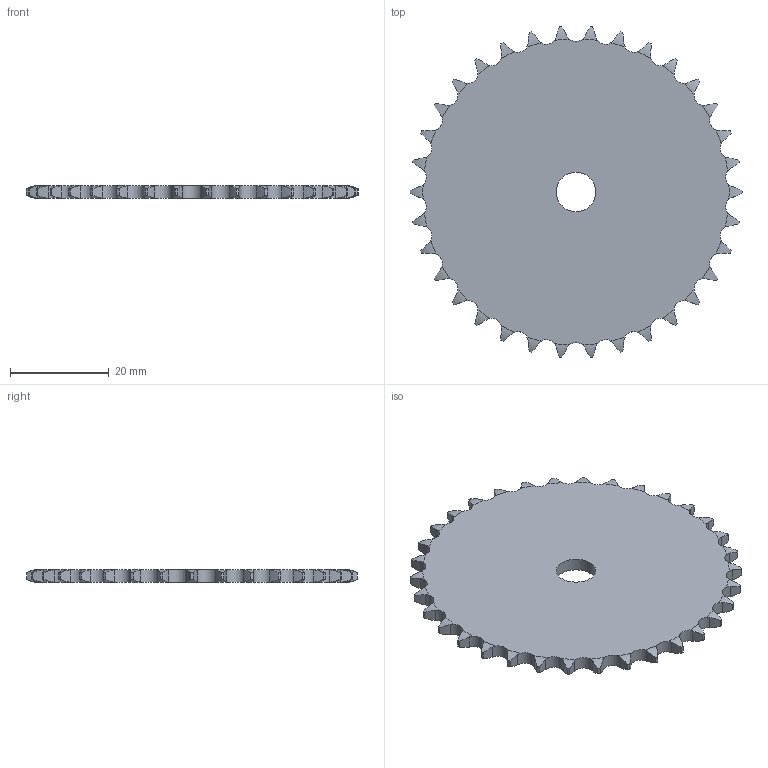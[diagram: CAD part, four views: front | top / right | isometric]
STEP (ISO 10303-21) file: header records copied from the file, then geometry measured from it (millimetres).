
FILE_DESCRIPTION((''),'2;1');
FILE_NAME('500-061-0034_PRT','2021-02-12T',('Brieden'),('Brieden'),'PRO/ENGINEER BY PARAMETRIC TECHNOLOGY CORPORATION, 2010160','PRO/ENGINEER BY PARAMETRIC TECHNOLOGY CORPORATION, 2010160','');
FILE_SCHEMA(('AUTOMOTIVE_DESIGN { 1 0 10303 214 1 1 1 1 }'));
Length unit declared in the file: millimetre
Products named in the file (1): 500-061-0034_PRT
Bounding box: 67.31 x 67.07 x 2.6 mm (x, y, z)
Volume: 8003.3 mm3; surface area: 6988.3 mm2
Topology: 1 solids, 1 shells, 208 faces, 618 edges, 412 vertices
Faces by surface type: cylinder 138, torus 68, plane 2
Entity records: 9666 total; most frequent: CARTESIAN_POINT 2493, ORIENTED_EDGE 1236, DIRECTION 970, PRESENTATION_STYLE_ASSIGNMENT 619, STYLED_ITEM 619, CURVE_STYLE 618, EDGE_CURVE 618, AXIS2_PLACEMENT_3D 416
